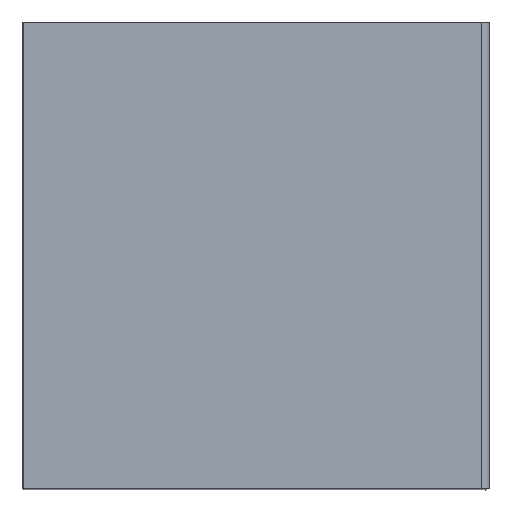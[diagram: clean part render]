
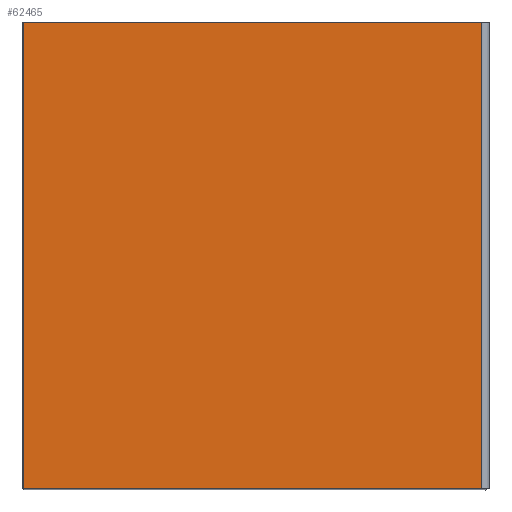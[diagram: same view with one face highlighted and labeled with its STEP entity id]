
A CAD part, top view. The second image highlights one B-rep face of the part: STEP entity #62465.
In plain terms, the highlighted planar face has unit normal (0, 0, 1) as drawn and (1, 0, 0) by its records, which use the part's own axes.
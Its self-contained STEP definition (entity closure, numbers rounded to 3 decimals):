
#738=LINE('',#86574,#9027);
#739=LINE('',#86576,#9028);
#740=LINE('',#86578,#9029);
#741=LINE('',#86579,#9030);
#9027=VECTOR('',#70947,1000.);
#9028=VECTOR('',#70948,1000.);
#9029=VECTOR('',#70949,1000.);
#9030=VECTOR('',#70950,1000.);
#17887=ORIENTED_EDGE('',*,*,#35258,.T.);
#17888=ORIENTED_EDGE('',*,*,#35259,.T.);
#17889=ORIENTED_EDGE('',*,*,#35260,.T.);
#17890=ORIENTED_EDGE('',*,*,#35261,.T.);
#35258=EDGE_CURVE('',#44030,#44039,#738,.T.);
#35259=EDGE_CURVE('',#44039,#44040,#739,.T.);
#35260=EDGE_CURVE('',#44040,#44020,#740,.T.);
#35261=EDGE_CURVE('',#44020,#44030,#741,.T.);
#44020=VERTEX_POINT('',#86534);
#44030=VERTEX_POINT('',#86555);
#44039=VERTEX_POINT('',#86575);
#44040=VERTEX_POINT('',#86577);
#50560=EDGE_LOOP('',(#17887,#17888,#17889,#17890));
#55227=FACE_BOUND('',#50560,.T.);
#59611=PLANE('',#66642);
#62465=ADVANCED_FACE('',(#55227),#59611,.T.);
#66642=AXIS2_PLACEMENT_3D('',#86573,#70945,#70946);
#70945=DIRECTION('',(1.,0.,0.));
#70946=DIRECTION('',(0.,0.,-1.));
#70947=DIRECTION('',(0.,0.,1.));
#70948=DIRECTION('',(0.,-1.,0.));
#70949=DIRECTION('',(0.,0.,-1.));
#70950=DIRECTION('',(0.,1.,0.));
#86534=CARTESIAN_POINT('',(0.,-321.798,-331.918));
#86555=CARTESIAN_POINT('',(0.,321.798,-331.918));
#86573=CARTESIAN_POINT('',(0.,322.4,-332.52));
#86574=CARTESIAN_POINT('',(0.,321.798,-332.52));
#86575=CARTESIAN_POINT('',(0.,321.798,301.3));
#86576=CARTESIAN_POINT('',(0.,322.4,301.3));
#86577=CARTESIAN_POINT('',(0.,-321.798,301.3));
#86578=CARTESIAN_POINT('',(0.,-321.798,301.3));
#86579=CARTESIAN_POINT('',(0.,-321.798,-331.918));
